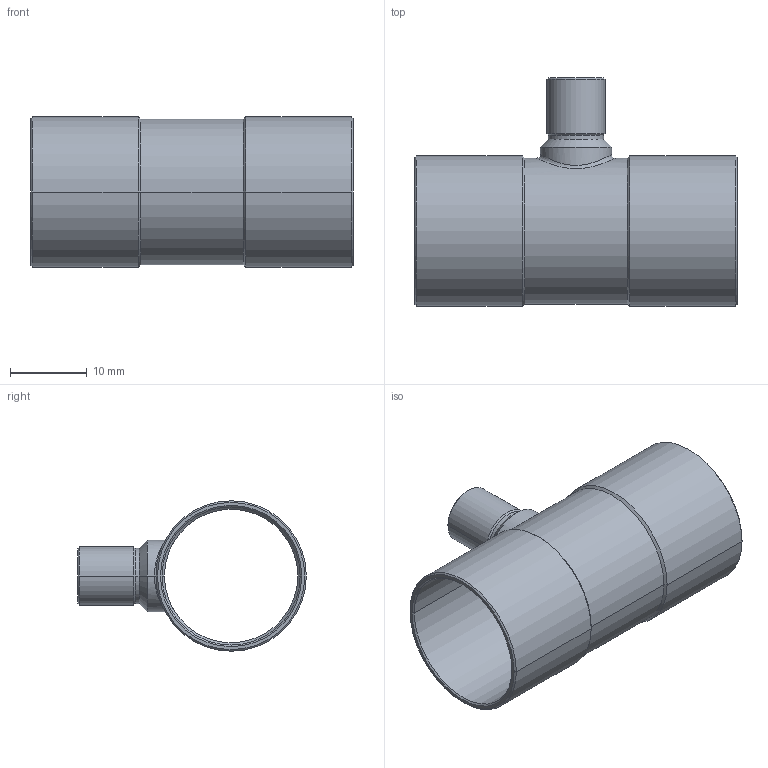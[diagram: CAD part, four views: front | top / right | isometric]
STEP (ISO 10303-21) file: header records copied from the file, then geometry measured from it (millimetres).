
FILE_DESCRIPTION((''),'2;1');
FILE_NAME('P:\Bouwmaten\z-maattekeningen 3D\5000\5130\513018618.stp','2005-10-26T11:53:35',('Kris'),(''),'Autodesk Inventor 8','Autodesk Inventor 8','');
FILE_SCHEMA(('AUTOMOTIVE_DESIGN { 1 0 10303 214 1 1 1 1 }'));
Length unit declared in the file: millimetre
Products named in the file (1): 513018618
Bounding box: 42 x 29.8 x 19.6 mm (x, y, z)
Volume: 2121.6 mm3; surface area: 5423.9 mm2
Topology: 1 solids, 1 shells, 57 faces, 124 edges, 68 vertices
Faces by surface type: cone 24, cylinder 20, bspline 10, plane 3
Entity records: 1937 total; most frequent: CARTESIAN_POINT 696, DIRECTION 264, ORIENTED_EDGE 248, EDGE_CURVE 124, AXIS2_PLACEMENT_3D 105, VERTEX_POINT 68, EDGE_LOOP 60, CIRCLE 57
